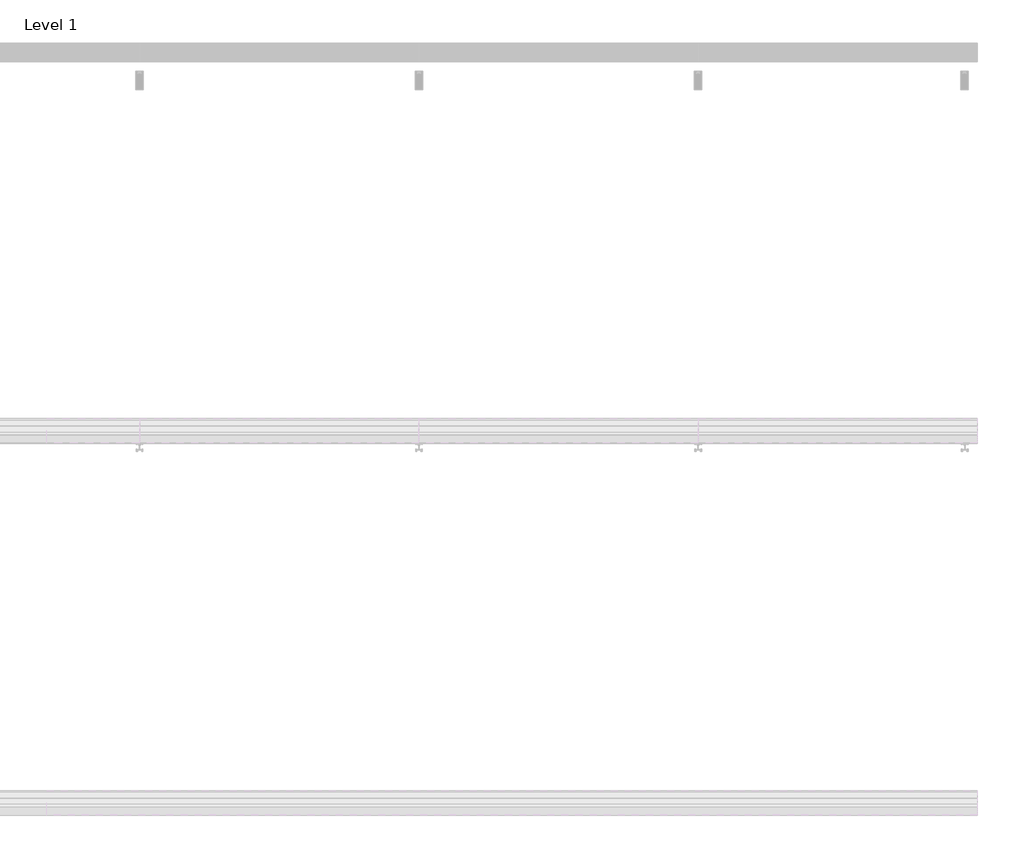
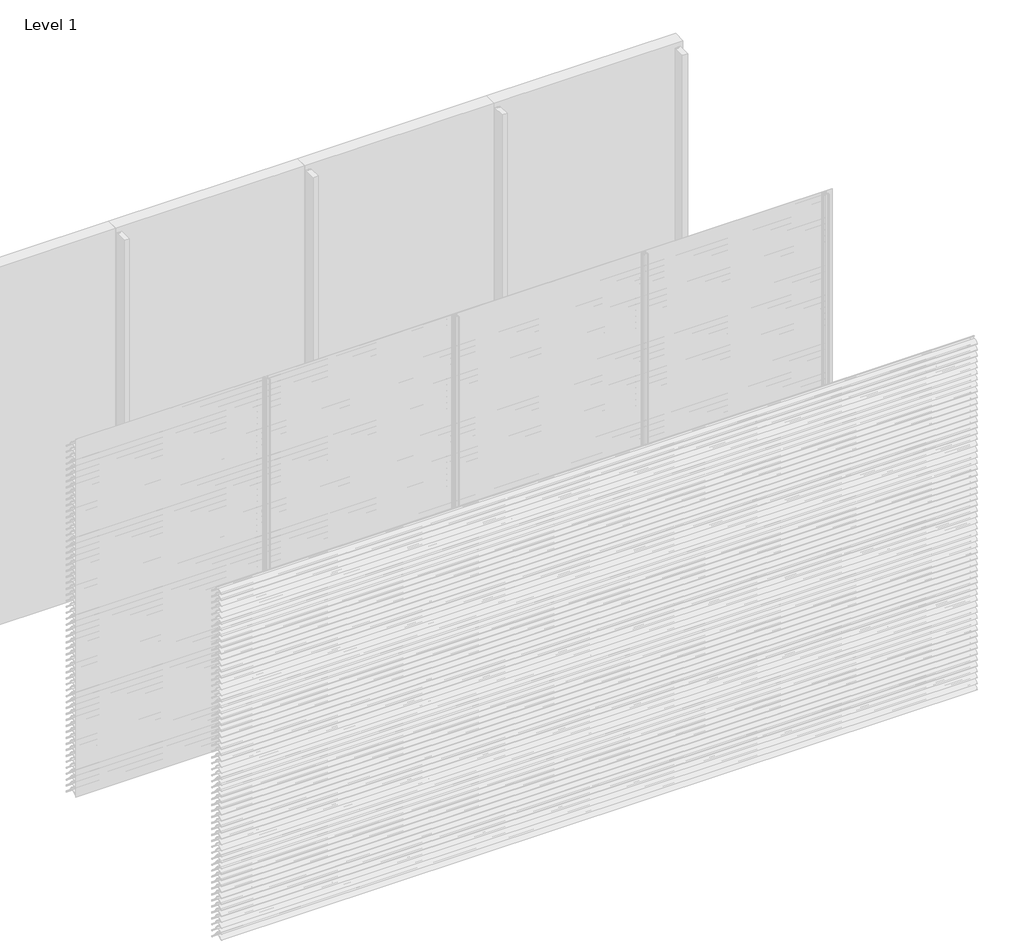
# One storey, part 50 of 173: 18 proxies.
"""IFC4 building model written with IfcOpenShell, lengths in millimetres."""

from ifc_helpers import new_model, si_unit, point, frame, frame_2d, origin, place, context, project, spatial, polyline, circle_curve, trimmed, segment, composite_curve, outline, extrude, element, save

model = new_model("IFC4")

# Units and contexts
model_context = context("Model", 3, world=origin())
ifc_project = project(units=[si_unit("LENGTHUNIT", "METRE", prefix="MILLI")], contexts=[model_context])

# Site, building, storey
site = spatial("IfcSite", under=ifc_project)
building = spatial("IfcBuilding", under=site)
storey = spatial("IfcBuildingStorey", under=building, Name="Level 1", Elevation=0.0)

# Proxies
placement = place(None, origin())
element("IfcBuildingElementProxy", 1, Name="Wall Sweeps", at=placement, inside=storey, context=model_context, shape_type="SweptSolid", body=[
    extrude(outline(composite_curve([segment(polyline([(-41998.0, 859.1474905), (-41998.0, 861.6227417)]), True, "CONTINUOUS"), segment(trimmed(circle_curve(frame_2d((-41951.2682172, 816.2200208)), 65.1557103), [point((-41998.0, 861.6227417))], [point((-41954.4014323, 881.3003524))], False, "CARTESIAN"), True, "CONTINUOUS"), segment(polyline([(-41954.4014323, 881.3003524), (-41934.8315836, 881.3003524)]), True, "CONTINUOUS"), segment(trimmed(circle_curve(frame_2d((-41732.7329489, 1028.5533172)), 250.0545817), [point((-41934.8315836, 881.3003524))], [point((-41941.4452143, 890.8344583))], False, "CARTESIAN"), True, "CONTINUOUS"), segment(trimmed(circle_curve(frame_2d((-41953.2981792, 885.1737835)), 13.1352966), [point((-41941.4452143, 890.8344583))], [point((-41953.8171475, 898.298824))], True, "CARTESIAN"), True, "CONTINUOUS"), segment(polyline([(-41953.8171475, 898.298824), (-41953.8171475, 900.0)]), True, "CONTINUOUS"), segment(trimmed(circle_curve(frame_2d((-41953.2981792, 885.1737835)), 14.8352966), [point((-41953.8171475, 900.0))], [point((-41939.9637661, 891.6760487))], False, "CARTESIAN"), True, "CONTINUOUS"), segment(trimmed(circle_curve(frame_2d((-41732.7329489, 1028.5533172)), 248.3545817), [point((-41939.9637661, 891.6760487))], [point((-41873.8787895, 824.2059416))], True, "CARTESIAN"), True, "CONTINUOUS"), segment(trimmed(circle_curve(frame_2d((-41883.8147537, 811.6649442)), 16.0), [point((-41873.8787895, 824.2059416))], [point((-41867.8648347, 810.4))], False, "CARTESIAN"), True, "CONTINUOUS"), segment(polyline([(-41867.8648347, 810.4), (-41869.6712069, 810.4)]), True, "CONTINUOUS"), segment(trimmed(circle_curve(frame_2d((-41883.8147537, 811.6649442)), 14.2), [point((-41869.6712069, 810.4))], [point((-41874.9518628, 822.7594998))], True, "CARTESIAN"), True, "CONTINUOUS"), segment(trimmed(circle_curve(frame_2d((-41732.7329489, 1028.5533172)), 250.1545817), [point((-41874.9518628, 822.7594998))], [point((-41933.7064024, 879.6003524))], False, "CARTESIAN"), True, "CONTINUOUS"), segment(polyline([(-41933.7064024, 879.6003524), (-41954.3602632, 879.6003524)]), True, "CONTINUOUS"), segment(trimmed(circle_curve(frame_2d((-41951.2682172, 816.2200208)), 63.4557103), [point((-41954.3602632, 879.6003524))], [point((-41998.0, 859.1474905))], True, "CARTESIAN"), True, "CONTINUOUS")], self_intersect=False)), frame((3000.0, 0.0, 0.0), z_axis=(1.0, 0.0, 0.0), x_axis=(0.0, 1.0, 0.0)), (0.0, 0.0, 1.0), 1500.0),
])
element("IfcBuildingElementProxy", 2, Name="Wall Sweeps", at=placement, inside=storey, context=model_context, shape_type="SweptSolid", body=[
    extrude(outline(composite_curve([segment(polyline([(-41998.0, 809.1474905), (-41998.0, 811.6227417)]), True, "CONTINUOUS"), segment(trimmed(circle_curve(frame_2d((-41951.2682172, 766.2200208)), 65.1557103), [point((-41998.0, 811.6227417))], [point((-41954.4014323, 831.3003524))], False, "CARTESIAN"), True, "CONTINUOUS"), segment(polyline([(-41954.4014323, 831.3003524), (-41934.8315836, 831.3003524)]), True, "CONTINUOUS"), segment(trimmed(circle_curve(frame_2d((-41732.7329489, 978.5533172)), 250.0545817), [point((-41934.8315836, 831.3003524))], [point((-41941.4452143, 840.8344583))], False, "CARTESIAN"), True, "CONTINUOUS"), segment(trimmed(circle_curve(frame_2d((-41953.2981792, 835.1737835)), 13.1352966), [point((-41941.4452143, 840.8344583))], [point((-41953.8171475, 848.298824))], True, "CARTESIAN"), True, "CONTINUOUS"), segment(polyline([(-41953.8171475, 848.298824), (-41953.8171475, 850.0)]), True, "CONTINUOUS"), segment(trimmed(circle_curve(frame_2d((-41953.2981792, 835.1737835)), 14.8352966), [point((-41953.8171475, 850.0))], [point((-41939.9637661, 841.6760487))], False, "CARTESIAN"), True, "CONTINUOUS"), segment(trimmed(circle_curve(frame_2d((-41732.7329489, 978.5533172)), 248.3545817), [point((-41939.9637661, 841.6760487))], [point((-41873.8787895, 774.2059416))], True, "CARTESIAN"), True, "CONTINUOUS"), segment(trimmed(circle_curve(frame_2d((-41883.8147537, 761.6649442)), 16.0), [point((-41873.8787895, 774.2059416))], [point((-41867.8648347, 760.4))], False, "CARTESIAN"), True, "CONTINUOUS"), segment(polyline([(-41867.8648347, 760.4), (-41869.6712069, 760.4)]), True, "CONTINUOUS"), segment(trimmed(circle_curve(frame_2d((-41883.8147537, 761.6649442)), 14.2), [point((-41869.6712069, 760.4))], [point((-41874.9518628, 772.7594998))], True, "CARTESIAN"), True, "CONTINUOUS"), segment(trimmed(circle_curve(frame_2d((-41732.7329489, 978.5533172)), 250.1545817), [point((-41874.9518628, 772.7594998))], [point((-41933.7064024, 829.6003524))], False, "CARTESIAN"), True, "CONTINUOUS"), segment(polyline([(-41933.7064024, 829.6003524), (-41954.3602632, 829.6003524)]), True, "CONTINUOUS"), segment(trimmed(circle_curve(frame_2d((-41951.2682172, 766.2200208)), 63.4557103), [point((-41954.3602632, 829.6003524))], [point((-41998.0, 809.1474905))], True, "CARTESIAN"), True, "CONTINUOUS")], self_intersect=False)), frame((3000.0, 0.0, 0.0), z_axis=(1.0, 0.0, 0.0), x_axis=(0.0, 1.0, 0.0)), (0.0, 0.0, 1.0), 1500.0),
])
element("IfcBuildingElementProxy", 3, Name="Wall Sweeps", at=placement, inside=storey, context=model_context, shape_type="SweptSolid", body=[
    extrude(outline(composite_curve([segment(polyline([(-41998.0, 759.1474905), (-41998.0, 761.6227417)]), True, "CONTINUOUS"), segment(trimmed(circle_curve(frame_2d((-41951.2682172, 716.2200208)), 65.1557103), [point((-41998.0, 761.6227417))], [point((-41954.4014323, 781.3003524))], False, "CARTESIAN"), True, "CONTINUOUS"), segment(polyline([(-41954.4014323, 781.3003524), (-41934.8315836, 781.3003524)]), True, "CONTINUOUS"), segment(trimmed(circle_curve(frame_2d((-41732.7329489, 928.5533172)), 250.0545817), [point((-41934.8315836, 781.3003524))], [point((-41941.4452143, 790.8344583))], False, "CARTESIAN"), True, "CONTINUOUS"), segment(trimmed(circle_curve(frame_2d((-41953.2981792, 785.1737835)), 13.1352966), [point((-41941.4452143, 790.8344583))], [point((-41953.8171475, 798.298824))], True, "CARTESIAN"), True, "CONTINUOUS"), segment(polyline([(-41953.8171475, 798.298824), (-41953.8171475, 800.0)]), True, "CONTINUOUS"), segment(trimmed(circle_curve(frame_2d((-41953.2981792, 785.1737835)), 14.8352966), [point((-41953.8171475, 800.0))], [point((-41939.9637661, 791.6760487))], False, "CARTESIAN"), True, "CONTINUOUS"), segment(trimmed(circle_curve(frame_2d((-41732.7329489, 928.5533172)), 248.3545817), [point((-41939.9637661, 791.6760487))], [point((-41873.8787895, 724.2059416))], True, "CARTESIAN"), True, "CONTINUOUS"), segment(trimmed(circle_curve(frame_2d((-41883.8147537, 711.6649442)), 16.0), [point((-41873.8787895, 724.2059416))], [point((-41867.8648347, 710.4))], False, "CARTESIAN"), True, "CONTINUOUS"), segment(polyline([(-41867.8648347, 710.4), (-41869.6712069, 710.4)]), True, "CONTINUOUS"), segment(trimmed(circle_curve(frame_2d((-41883.8147537, 711.6649442)), 14.2), [point((-41869.6712069, 710.4))], [point((-41874.9518628, 722.7594998))], True, "CARTESIAN"), True, "CONTINUOUS"), segment(trimmed(circle_curve(frame_2d((-41732.7329489, 928.5533172)), 250.1545817), [point((-41874.9518628, 722.7594998))], [point((-41933.7064024, 779.6003524))], False, "CARTESIAN"), True, "CONTINUOUS"), segment(polyline([(-41933.7064024, 779.6003524), (-41954.3602632, 779.6003524)]), True, "CONTINUOUS"), segment(trimmed(circle_curve(frame_2d((-41951.2682172, 716.2200208)), 63.4557103), [point((-41954.3602632, 779.6003524))], [point((-41998.0, 759.1474905))], True, "CARTESIAN"), True, "CONTINUOUS")], self_intersect=False)), frame((3000.0, 0.0, 0.0), z_axis=(1.0, 0.0, 0.0), x_axis=(0.0, 1.0, 0.0)), (0.0, 0.0, 1.0), 1500.0),
])
element("IfcBuildingElementProxy", 4, Name="Wall Sweeps", at=placement, inside=storey, context=model_context, shape_type="SweptSolid", body=[
    extrude(outline(composite_curve([segment(polyline([(-41998.0, 709.1474905), (-41998.0, 711.6227417)]), True, "CONTINUOUS"), segment(trimmed(circle_curve(frame_2d((-41951.2682172, 666.2200208)), 65.1557103), [point((-41998.0, 711.6227417))], [point((-41954.4014323, 731.3003524))], False, "CARTESIAN"), True, "CONTINUOUS"), segment(polyline([(-41954.4014323, 731.3003524), (-41934.8315836, 731.3003524)]), True, "CONTINUOUS"), segment(trimmed(circle_curve(frame_2d((-41732.7329489, 878.5533172)), 250.0545817), [point((-41934.8315836, 731.3003524))], [point((-41941.4452143, 740.8344583))], False, "CARTESIAN"), True, "CONTINUOUS"), segment(trimmed(circle_curve(frame_2d((-41953.2981792, 735.1737835)), 13.1352966), [point((-41941.4452143, 740.8344583))], [point((-41953.8171475, 748.298824))], True, "CARTESIAN"), True, "CONTINUOUS"), segment(polyline([(-41953.8171475, 748.298824), (-41953.8171475, 750.0)]), True, "CONTINUOUS"), segment(trimmed(circle_curve(frame_2d((-41953.2981792, 735.1737835)), 14.8352966), [point((-41953.8171475, 750.0))], [point((-41939.9637661, 741.6760487))], False, "CARTESIAN"), True, "CONTINUOUS"), segment(trimmed(circle_curve(frame_2d((-41732.7329489, 878.5533172)), 248.3545817), [point((-41939.9637661, 741.6760487))], [point((-41873.8787895, 674.2059416))], True, "CARTESIAN"), True, "CONTINUOUS"), segment(trimmed(circle_curve(frame_2d((-41883.8147537, 661.6649442)), 16.0), [point((-41873.8787895, 674.2059416))], [point((-41867.8648347, 660.4))], False, "CARTESIAN"), True, "CONTINUOUS"), segment(polyline([(-41867.8648347, 660.4), (-41869.6712069, 660.4)]), True, "CONTINUOUS"), segment(trimmed(circle_curve(frame_2d((-41883.8147537, 661.6649442)), 14.2), [point((-41869.6712069, 660.4))], [point((-41874.9518628, 672.7594998))], True, "CARTESIAN"), True, "CONTINUOUS"), segment(trimmed(circle_curve(frame_2d((-41732.7329489, 878.5533172)), 250.1545817), [point((-41874.9518628, 672.7594998))], [point((-41933.7064024, 729.6003524))], False, "CARTESIAN"), True, "CONTINUOUS"), segment(polyline([(-41933.7064024, 729.6003524), (-41954.3602632, 729.6003524)]), True, "CONTINUOUS"), segment(trimmed(circle_curve(frame_2d((-41951.2682172, 666.2200208)), 63.4557103), [point((-41954.3602632, 729.6003524))], [point((-41998.0, 709.1474905))], True, "CARTESIAN"), True, "CONTINUOUS")], self_intersect=False)), frame((3000.0, 0.0, 0.0), z_axis=(1.0, 0.0, 0.0), x_axis=(0.0, 1.0, 0.0)), (0.0, 0.0, 1.0), 1500.0),
])
element("IfcBuildingElementProxy", 5, Name="Wall Sweeps", at=placement, inside=storey, context=model_context, shape_type="SweptSolid", body=[
    extrude(outline(composite_curve([segment(polyline([(-41998.0, 659.1474905), (-41998.0, 661.6227417)]), True, "CONTINUOUS"), segment(trimmed(circle_curve(frame_2d((-41951.2682172, 616.2200208)), 65.1557103), [point((-41998.0, 661.6227417))], [point((-41954.4014323, 681.3003524))], False, "CARTESIAN"), True, "CONTINUOUS"), segment(polyline([(-41954.4014323, 681.3003524), (-41934.8315836, 681.3003524)]), True, "CONTINUOUS"), segment(trimmed(circle_curve(frame_2d((-41732.7329489, 828.5533172)), 250.0545817), [point((-41934.8315836, 681.3003524))], [point((-41941.4452143, 690.8344583))], False, "CARTESIAN"), True, "CONTINUOUS"), segment(trimmed(circle_curve(frame_2d((-41953.2981792, 685.1737835)), 13.1352966), [point((-41941.4452143, 690.8344583))], [point((-41953.8171475, 698.298824))], True, "CARTESIAN"), True, "CONTINUOUS"), segment(polyline([(-41953.8171475, 698.298824), (-41953.8171475, 700.0)]), True, "CONTINUOUS"), segment(trimmed(circle_curve(frame_2d((-41953.2981792, 685.1737835)), 14.8352966), [point((-41953.8171475, 700.0))], [point((-41939.9637661, 691.6760487))], False, "CARTESIAN"), True, "CONTINUOUS"), segment(trimmed(circle_curve(frame_2d((-41732.7329489, 828.5533172)), 248.3545817), [point((-41939.9637661, 691.6760487))], [point((-41873.8787895, 624.2059416))], True, "CARTESIAN"), True, "CONTINUOUS"), segment(trimmed(circle_curve(frame_2d((-41883.8147537, 611.6649442)), 16.0), [point((-41873.8787895, 624.2059416))], [point((-41867.8648347, 610.4))], False, "CARTESIAN"), True, "CONTINUOUS"), segment(polyline([(-41867.8648347, 610.4), (-41869.6712069, 610.4)]), True, "CONTINUOUS"), segment(trimmed(circle_curve(frame_2d((-41883.8147537, 611.6649442)), 14.2), [point((-41869.6712069, 610.4))], [point((-41874.9518628, 622.7594998))], True, "CARTESIAN"), True, "CONTINUOUS"), segment(trimmed(circle_curve(frame_2d((-41732.7329489, 828.5533172)), 250.1545817), [point((-41874.9518628, 622.7594998))], [point((-41933.7064024, 679.6003524))], False, "CARTESIAN"), True, "CONTINUOUS"), segment(polyline([(-41933.7064024, 679.6003524), (-41954.3602632, 679.6003524)]), True, "CONTINUOUS"), segment(trimmed(circle_curve(frame_2d((-41951.2682172, 616.2200208)), 63.4557103), [point((-41954.3602632, 679.6003524))], [point((-41998.0, 659.1474905))], True, "CARTESIAN"), True, "CONTINUOUS")], self_intersect=False)), frame((3000.0, 0.0, 0.0), z_axis=(1.0, 0.0, 0.0), x_axis=(0.0, 1.0, 0.0)), (0.0, 0.0, 1.0), 1500.0),
])
element("IfcBuildingElementProxy", 6, Name="Wall Sweeps", at=placement, inside=storey, context=model_context, shape_type="SweptSolid", body=[
    extrude(outline(composite_curve([segment(polyline([(-41998.0, 609.1474905), (-41998.0, 611.6227417)]), True, "CONTINUOUS"), segment(trimmed(circle_curve(frame_2d((-41951.2682172, 566.2200208)), 65.1557103), [point((-41998.0, 611.6227417))], [point((-41954.4014323, 631.3003524))], False, "CARTESIAN"), True, "CONTINUOUS"), segment(polyline([(-41954.4014323, 631.3003524), (-41934.8315836, 631.3003524)]), True, "CONTINUOUS"), segment(trimmed(circle_curve(frame_2d((-41732.7329489, 778.5533172)), 250.0545817), [point((-41934.8315836, 631.3003524))], [point((-41941.4452143, 640.8344583))], False, "CARTESIAN"), True, "CONTINUOUS"), segment(trimmed(circle_curve(frame_2d((-41953.2981792, 635.1737835)), 13.1352966), [point((-41941.4452143, 640.8344583))], [point((-41953.8171475, 648.298824))], True, "CARTESIAN"), True, "CONTINUOUS"), segment(polyline([(-41953.8171475, 648.298824), (-41953.8171475, 650.0)]), True, "CONTINUOUS"), segment(trimmed(circle_curve(frame_2d((-41953.2981792, 635.1737835)), 14.8352966), [point((-41953.8171475, 650.0))], [point((-41939.9637661, 641.6760487))], False, "CARTESIAN"), True, "CONTINUOUS"), segment(trimmed(circle_curve(frame_2d((-41732.7329489, 778.5533172)), 248.3545817), [point((-41939.9637661, 641.6760487))], [point((-41873.8787895, 574.2059416))], True, "CARTESIAN"), True, "CONTINUOUS"), segment(trimmed(circle_curve(frame_2d((-41883.8147537, 561.6649442)), 16.0), [point((-41873.8787895, 574.2059416))], [point((-41867.8648347, 560.4))], False, "CARTESIAN"), True, "CONTINUOUS"), segment(polyline([(-41867.8648347, 560.4), (-41869.6712069, 560.4)]), True, "CONTINUOUS"), segment(trimmed(circle_curve(frame_2d((-41883.8147537, 561.6649442)), 14.2), [point((-41869.6712069, 560.4))], [point((-41874.9518628, 572.7594998))], True, "CARTESIAN"), True, "CONTINUOUS"), segment(trimmed(circle_curve(frame_2d((-41732.7329489, 778.5533172)), 250.1545817), [point((-41874.9518628, 572.7594998))], [point((-41933.7064024, 629.6003524))], False, "CARTESIAN"), True, "CONTINUOUS"), segment(polyline([(-41933.7064024, 629.6003524), (-41954.3602632, 629.6003524)]), True, "CONTINUOUS"), segment(trimmed(circle_curve(frame_2d((-41951.2682172, 566.2200208)), 63.4557103), [point((-41954.3602632, 629.6003524))], [point((-41998.0, 609.1474905))], True, "CARTESIAN"), True, "CONTINUOUS")], self_intersect=False)), frame((3000.0, 0.0, 0.0), z_axis=(1.0, 0.0, 0.0), x_axis=(0.0, 1.0, 0.0)), (0.0, 0.0, 1.0), 1500.0),
])
element("IfcBuildingElementProxy", 7, Name="Wall Sweeps", at=placement, inside=storey, context=model_context, shape_type="SweptSolid", body=[
    extrude(outline(composite_curve([segment(polyline([(-41998.0, 559.1474905), (-41998.0, 561.6227417)]), True, "CONTINUOUS"), segment(trimmed(circle_curve(frame_2d((-41951.2682172, 516.2200208)), 65.1557103), [point((-41998.0, 561.6227417))], [point((-41954.4014323, 581.3003524))], False, "CARTESIAN"), True, "CONTINUOUS"), segment(polyline([(-41954.4014323, 581.3003524), (-41934.8315836, 581.3003524)]), True, "CONTINUOUS"), segment(trimmed(circle_curve(frame_2d((-41732.7329489, 728.5533172)), 250.0545817), [point((-41934.8315836, 581.3003524))], [point((-41941.4452143, 590.8344583))], False, "CARTESIAN"), True, "CONTINUOUS"), segment(trimmed(circle_curve(frame_2d((-41953.2981792, 585.1737835)), 13.1352966), [point((-41941.4452143, 590.8344583))], [point((-41953.8171475, 598.298824))], True, "CARTESIAN"), True, "CONTINUOUS"), segment(polyline([(-41953.8171475, 598.298824), (-41953.8171475, 600.0)]), True, "CONTINUOUS"), segment(trimmed(circle_curve(frame_2d((-41953.2981792, 585.1737835)), 14.8352966), [point((-41953.8171475, 600.0))], [point((-41939.9637661, 591.6760487))], False, "CARTESIAN"), True, "CONTINUOUS"), segment(trimmed(circle_curve(frame_2d((-41732.7329489, 728.5533172)), 248.3545817), [point((-41939.9637661, 591.6760487))], [point((-41873.8787895, 524.2059416))], True, "CARTESIAN"), True, "CONTINUOUS"), segment(trimmed(circle_curve(frame_2d((-41883.8147537, 511.6649442)), 16.0), [point((-41873.8787895, 524.2059416))], [point((-41867.8648347, 510.4))], False, "CARTESIAN"), True, "CONTINUOUS"), segment(polyline([(-41867.8648347, 510.4), (-41869.6712069, 510.4)]), True, "CONTINUOUS"), segment(trimmed(circle_curve(frame_2d((-41883.8147537, 511.6649442)), 14.2), [point((-41869.6712069, 510.4))], [point((-41874.9518628, 522.7594998))], True, "CARTESIAN"), True, "CONTINUOUS"), segment(trimmed(circle_curve(frame_2d((-41732.7329489, 728.5533172)), 250.1545817), [point((-41874.9518628, 522.7594998))], [point((-41933.7064024, 579.6003524))], False, "CARTESIAN"), True, "CONTINUOUS"), segment(polyline([(-41933.7064024, 579.6003524), (-41954.3602632, 579.6003524)]), True, "CONTINUOUS"), segment(trimmed(circle_curve(frame_2d((-41951.2682172, 516.2200208)), 63.4557103), [point((-41954.3602632, 579.6003524))], [point((-41998.0, 559.1474905))], True, "CARTESIAN"), True, "CONTINUOUS")], self_intersect=False)), frame((3000.0, 0.0, 0.0), z_axis=(1.0, 0.0, 0.0), x_axis=(0.0, 1.0, 0.0)), (0.0, 0.0, 1.0), 1500.0),
])
element("IfcBuildingElementProxy", 8, Name="Wall Sweeps", at=placement, inside=storey, context=model_context, shape_type="SweptSolid", body=[
    extrude(outline(composite_curve([segment(polyline([(-41998.0, 509.1474905), (-41998.0, 511.6227417)]), True, "CONTINUOUS"), segment(trimmed(circle_curve(frame_2d((-41951.2682172, 466.2200208)), 65.1557103), [point((-41998.0, 511.6227417))], [point((-41954.4014323, 531.3003524))], False, "CARTESIAN"), True, "CONTINUOUS"), segment(polyline([(-41954.4014323, 531.3003524), (-41934.8315836, 531.3003524)]), True, "CONTINUOUS"), segment(trimmed(circle_curve(frame_2d((-41732.7329489, 678.5533172)), 250.0545817), [point((-41934.8315836, 531.3003524))], [point((-41941.4452143, 540.8344583))], False, "CARTESIAN"), True, "CONTINUOUS"), segment(trimmed(circle_curve(frame_2d((-41953.2981792, 535.1737835)), 13.1352966), [point((-41941.4452143, 540.8344583))], [point((-41953.8171475, 548.298824))], True, "CARTESIAN"), True, "CONTINUOUS"), segment(polyline([(-41953.8171475, 548.298824), (-41953.8171475, 550.0)]), True, "CONTINUOUS"), segment(trimmed(circle_curve(frame_2d((-41953.2981792, 535.1737835)), 14.8352966), [point((-41953.8171475, 550.0))], [point((-41939.9637661, 541.6760487))], False, "CARTESIAN"), True, "CONTINUOUS"), segment(trimmed(circle_curve(frame_2d((-41732.7329489, 678.5533172)), 248.3545817), [point((-41939.9637661, 541.6760487))], [point((-41873.8787895, 474.2059416))], True, "CARTESIAN"), True, "CONTINUOUS"), segment(trimmed(circle_curve(frame_2d((-41883.8147537, 461.6649442)), 16.0), [point((-41873.8787895, 474.2059416))], [point((-41867.8648347, 460.4))], False, "CARTESIAN"), True, "CONTINUOUS"), segment(polyline([(-41867.8648347, 460.4), (-41869.6712069, 460.4)]), True, "CONTINUOUS"), segment(trimmed(circle_curve(frame_2d((-41883.8147537, 461.6649442)), 14.2), [point((-41869.6712069, 460.4))], [point((-41874.9518628, 472.7594998))], True, "CARTESIAN"), True, "CONTINUOUS"), segment(trimmed(circle_curve(frame_2d((-41732.7329489, 678.5533172)), 250.1545817), [point((-41874.9518628, 472.7594998))], [point((-41933.7064024, 529.6003524))], False, "CARTESIAN"), True, "CONTINUOUS"), segment(polyline([(-41933.7064024, 529.6003524), (-41954.3602632, 529.6003524)]), True, "CONTINUOUS"), segment(trimmed(circle_curve(frame_2d((-41951.2682172, 466.2200208)), 63.4557103), [point((-41954.3602632, 529.6003524))], [point((-41998.0, 509.1474905))], True, "CARTESIAN"), True, "CONTINUOUS")], self_intersect=False)), frame((3000.0, 0.0, 0.0), z_axis=(1.0, 0.0, 0.0), x_axis=(0.0, 1.0, 0.0)), (0.0, 0.0, 1.0), 1500.0),
])
element("IfcBuildingElementProxy", 9, Name="Wall Sweeps", at=placement, inside=storey, context=model_context, shape_type="SweptSolid", body=[
    extrude(outline(composite_curve([segment(polyline([(-41998.0, 459.1474905), (-41998.0, 461.6227417)]), True, "CONTINUOUS"), segment(trimmed(circle_curve(frame_2d((-41951.2682172, 416.2200208)), 65.1557103), [point((-41998.0, 461.6227417))], [point((-41954.4014323, 481.3003524))], False, "CARTESIAN"), True, "CONTINUOUS"), segment(polyline([(-41954.4014323, 481.3003524), (-41934.8315836, 481.3003524)]), True, "CONTINUOUS"), segment(trimmed(circle_curve(frame_2d((-41732.7329489, 628.5533172)), 250.0545817), [point((-41934.8315836, 481.3003524))], [point((-41941.4452143, 490.8344583))], False, "CARTESIAN"), True, "CONTINUOUS"), segment(trimmed(circle_curve(frame_2d((-41953.2981792, 485.1737835)), 13.1352966), [point((-41941.4452143, 490.8344583))], [point((-41953.8171475, 498.298824))], True, "CARTESIAN"), True, "CONTINUOUS"), segment(polyline([(-41953.8171475, 498.298824), (-41953.8171475, 500.0)]), True, "CONTINUOUS"), segment(trimmed(circle_curve(frame_2d((-41953.2981792, 485.1737835)), 14.8352966), [point((-41953.8171475, 500.0))], [point((-41939.9637661, 491.6760487))], False, "CARTESIAN"), True, "CONTINUOUS"), segment(trimmed(circle_curve(frame_2d((-41732.7329489, 628.5533172)), 248.3545817), [point((-41939.9637661, 491.6760487))], [point((-41873.8787895, 424.2059416))], True, "CARTESIAN"), True, "CONTINUOUS"), segment(trimmed(circle_curve(frame_2d((-41883.8147537, 411.6649442)), 16.0), [point((-41873.8787895, 424.2059416))], [point((-41867.8648347, 410.4))], False, "CARTESIAN"), True, "CONTINUOUS"), segment(polyline([(-41867.8648347, 410.4), (-41869.6712069, 410.4)]), True, "CONTINUOUS"), segment(trimmed(circle_curve(frame_2d((-41883.8147537, 411.6649442)), 14.2), [point((-41869.6712069, 410.4))], [point((-41874.9518628, 422.7594998))], True, "CARTESIAN"), True, "CONTINUOUS"), segment(trimmed(circle_curve(frame_2d((-41732.7329489, 628.5533172)), 250.1545817), [point((-41874.9518628, 422.7594998))], [point((-41933.7064024, 479.6003524))], False, "CARTESIAN"), True, "CONTINUOUS"), segment(polyline([(-41933.7064024, 479.6003524), (-41954.3602632, 479.6003524)]), True, "CONTINUOUS"), segment(trimmed(circle_curve(frame_2d((-41951.2682172, 416.2200208)), 63.4557103), [point((-41954.3602632, 479.6003524))], [point((-41998.0, 459.1474905))], True, "CARTESIAN"), True, "CONTINUOUS")], self_intersect=False)), frame((3000.0, 0.0, 0.0), z_axis=(1.0, 0.0, 0.0), x_axis=(0.0, 1.0, 0.0)), (0.0, 0.0, 1.0), 1500.0),
])
element("IfcBuildingElementProxy", 10, Name="Wall Sweeps", at=placement, inside=storey, context=model_context, shape_type="SweptSolid", body=[
    extrude(outline(composite_curve([segment(polyline([(-41998.0, 409.1474905), (-41998.0, 411.6227417)]), True, "CONTINUOUS"), segment(trimmed(circle_curve(frame_2d((-41951.2682172, 366.2200208)), 65.1557103), [point((-41998.0, 411.6227417))], [point((-41954.4014323, 431.3003524))], False, "CARTESIAN"), True, "CONTINUOUS"), segment(polyline([(-41954.4014323, 431.3003524), (-41934.8315836, 431.3003524)]), True, "CONTINUOUS"), segment(trimmed(circle_curve(frame_2d((-41732.7329489, 578.5533172)), 250.0545817), [point((-41934.8315836, 431.3003524))], [point((-41941.4452143, 440.8344583))], False, "CARTESIAN"), True, "CONTINUOUS"), segment(trimmed(circle_curve(frame_2d((-41953.2981792, 435.1737835)), 13.1352966), [point((-41941.4452143, 440.8344583))], [point((-41953.8171475, 448.298824))], True, "CARTESIAN"), True, "CONTINUOUS"), segment(polyline([(-41953.8171475, 448.298824), (-41953.8171475, 450.0)]), True, "CONTINUOUS"), segment(trimmed(circle_curve(frame_2d((-41953.2981792, 435.1737835)), 14.8352966), [point((-41953.8171475, 450.0))], [point((-41939.9637661, 441.6760487))], False, "CARTESIAN"), True, "CONTINUOUS"), segment(trimmed(circle_curve(frame_2d((-41732.7329489, 578.5533172)), 248.3545817), [point((-41939.9637661, 441.6760487))], [point((-41873.8787895, 374.2059416))], True, "CARTESIAN"), True, "CONTINUOUS"), segment(trimmed(circle_curve(frame_2d((-41883.8147537, 361.6649442)), 16.0), [point((-41873.8787895, 374.2059416))], [point((-41867.8648347, 360.4))], False, "CARTESIAN"), True, "CONTINUOUS"), segment(polyline([(-41867.8648347, 360.4), (-41869.6712069, 360.4)]), True, "CONTINUOUS"), segment(trimmed(circle_curve(frame_2d((-41883.8147537, 361.6649442)), 14.2), [point((-41869.6712069, 360.4))], [point((-41874.9518628, 372.7594998))], True, "CARTESIAN"), True, "CONTINUOUS"), segment(trimmed(circle_curve(frame_2d((-41732.7329489, 578.5533172)), 250.1545817), [point((-41874.9518628, 372.7594998))], [point((-41933.7064024, 429.6003524))], False, "CARTESIAN"), True, "CONTINUOUS"), segment(polyline([(-41933.7064024, 429.6003524), (-41954.3602632, 429.6003524)]), True, "CONTINUOUS"), segment(trimmed(circle_curve(frame_2d((-41951.2682172, 366.2200208)), 63.4557103), [point((-41954.3602632, 429.6003524))], [point((-41998.0, 409.1474905))], True, "CARTESIAN"), True, "CONTINUOUS")], self_intersect=False)), frame((3000.0, 0.0, 0.0), z_axis=(1.0, 0.0, 0.0), x_axis=(0.0, 1.0, 0.0)), (0.0, 0.0, 1.0), 1500.0),
])
element("IfcBuildingElementProxy", 11, Name="Wall Sweeps", at=placement, inside=storey, context=model_context, shape_type="SweptSolid", body=[
    extrude(outline(composite_curve([segment(polyline([(-41998.0, 359.1474905), (-41998.0, 361.6227417)]), True, "CONTINUOUS"), segment(trimmed(circle_curve(frame_2d((-41951.2682172, 316.2200208)), 65.1557103), [point((-41998.0, 361.6227417))], [point((-41954.4014323, 381.3003524))], False, "CARTESIAN"), True, "CONTINUOUS"), segment(polyline([(-41954.4014323, 381.3003524), (-41934.8315836, 381.3003524)]), True, "CONTINUOUS"), segment(trimmed(circle_curve(frame_2d((-41732.7329489, 528.5533172)), 250.0545817), [point((-41934.8315836, 381.3003524))], [point((-41941.4452143, 390.8344583))], False, "CARTESIAN"), True, "CONTINUOUS"), segment(trimmed(circle_curve(frame_2d((-41953.2981792, 385.1737835)), 13.1352966), [point((-41941.4452143, 390.8344583))], [point((-41953.8171475, 398.298824))], True, "CARTESIAN"), True, "CONTINUOUS"), segment(polyline([(-41953.8171475, 398.298824), (-41953.8171475, 400.0)]), True, "CONTINUOUS"), segment(trimmed(circle_curve(frame_2d((-41953.2981792, 385.1737835)), 14.8352966), [point((-41953.8171475, 400.0))], [point((-41939.9637661, 391.6760487))], False, "CARTESIAN"), True, "CONTINUOUS"), segment(trimmed(circle_curve(frame_2d((-41732.7329489, 528.5533172)), 248.3545817), [point((-41939.9637661, 391.6760487))], [point((-41873.8787895, 324.2059416))], True, "CARTESIAN"), True, "CONTINUOUS"), segment(trimmed(circle_curve(frame_2d((-41883.8147537, 311.6649442)), 16.0), [point((-41873.8787895, 324.2059416))], [point((-41867.8648347, 310.4))], False, "CARTESIAN"), True, "CONTINUOUS"), segment(polyline([(-41867.8648347, 310.4), (-41869.6712069, 310.4)]), True, "CONTINUOUS"), segment(trimmed(circle_curve(frame_2d((-41883.8147537, 311.6649442)), 14.2), [point((-41869.6712069, 310.4))], [point((-41874.9518628, 322.7594998))], True, "CARTESIAN"), True, "CONTINUOUS"), segment(trimmed(circle_curve(frame_2d((-41732.7329489, 528.5533172)), 250.1545817), [point((-41874.9518628, 322.7594998))], [point((-41933.7064024, 379.6003524))], False, "CARTESIAN"), True, "CONTINUOUS"), segment(polyline([(-41933.7064024, 379.6003524), (-41954.3602632, 379.6003524)]), True, "CONTINUOUS"), segment(trimmed(circle_curve(frame_2d((-41951.2682172, 316.2200208)), 63.4557103), [point((-41954.3602632, 379.6003524))], [point((-41998.0, 359.1474905))], True, "CARTESIAN"), True, "CONTINUOUS")], self_intersect=False)), frame((3000.0, 0.0, 0.0), z_axis=(1.0, 0.0, 0.0), x_axis=(0.0, 1.0, 0.0)), (0.0, 0.0, 1.0), 1500.0),
])
element("IfcBuildingElementProxy", 12, Name="Wall Sweeps", at=placement, inside=storey, context=model_context, shape_type="SweptSolid", body=[
    extrude(outline(composite_curve([segment(polyline([(-41998.0, 309.1474905), (-41998.0, 311.6227417)]), True, "CONTINUOUS"), segment(trimmed(circle_curve(frame_2d((-41951.2682172, 266.2200208)), 65.1557103), [point((-41998.0, 311.6227417))], [point((-41954.4014323, 331.3003524))], False, "CARTESIAN"), True, "CONTINUOUS"), segment(polyline([(-41954.4014323, 331.3003524), (-41934.8315836, 331.3003524)]), True, "CONTINUOUS"), segment(trimmed(circle_curve(frame_2d((-41732.7329489, 478.5533172)), 250.0545817), [point((-41934.8315836, 331.3003524))], [point((-41941.4452143, 340.8344583))], False, "CARTESIAN"), True, "CONTINUOUS"), segment(trimmed(circle_curve(frame_2d((-41953.2981792, 335.1737835)), 13.1352966), [point((-41941.4452143, 340.8344583))], [point((-41953.8171475, 348.298824))], True, "CARTESIAN"), True, "CONTINUOUS"), segment(polyline([(-41953.8171475, 348.298824), (-41953.8171475, 350.0)]), True, "CONTINUOUS"), segment(trimmed(circle_curve(frame_2d((-41953.2981792, 335.1737835)), 14.8352966), [point((-41953.8171475, 350.0))], [point((-41939.9637661, 341.6760487))], False, "CARTESIAN"), True, "CONTINUOUS"), segment(trimmed(circle_curve(frame_2d((-41732.7329489, 478.5533172)), 248.3545817), [point((-41939.9637661, 341.6760487))], [point((-41873.8787895, 274.2059416))], True, "CARTESIAN"), True, "CONTINUOUS"), segment(trimmed(circle_curve(frame_2d((-41883.8147537, 261.6649442)), 16.0), [point((-41873.8787895, 274.2059416))], [point((-41867.8648347, 260.4))], False, "CARTESIAN"), True, "CONTINUOUS"), segment(polyline([(-41867.8648347, 260.4), (-41869.6712069, 260.4)]), True, "CONTINUOUS"), segment(trimmed(circle_curve(frame_2d((-41883.8147537, 261.6649442)), 14.2), [point((-41869.6712069, 260.4))], [point((-41874.9518628, 272.7594998))], True, "CARTESIAN"), True, "CONTINUOUS"), segment(trimmed(circle_curve(frame_2d((-41732.7329489, 478.5533172)), 250.1545817), [point((-41874.9518628, 272.7594998))], [point((-41933.7064024, 329.6003524))], False, "CARTESIAN"), True, "CONTINUOUS"), segment(polyline([(-41933.7064024, 329.6003524), (-41954.3602632, 329.6003524)]), True, "CONTINUOUS"), segment(trimmed(circle_curve(frame_2d((-41951.2682172, 266.2200208)), 63.4557103), [point((-41954.3602632, 329.6003524))], [point((-41998.0, 309.1474905))], True, "CARTESIAN"), True, "CONTINUOUS")], self_intersect=False)), frame((3000.0, 0.0, 0.0), z_axis=(1.0, 0.0, 0.0), x_axis=(0.0, 1.0, 0.0)), (0.0, 0.0, 1.0), 1500.0),
])
element("IfcBuildingElementProxy", 13, Name="Wall Sweeps", at=placement, inside=storey, context=model_context, shape_type="SweptSolid", body=[
    extrude(outline(composite_curve([segment(polyline([(-41998.0, 259.1474905), (-41998.0, 261.6227417)]), True, "CONTINUOUS"), segment(trimmed(circle_curve(frame_2d((-41951.2682172, 216.2200208)), 65.1557103), [point((-41998.0, 261.6227417))], [point((-41954.4014323, 281.3003524))], False, "CARTESIAN"), True, "CONTINUOUS"), segment(polyline([(-41954.4014323, 281.3003524), (-41934.8315836, 281.3003524)]), True, "CONTINUOUS"), segment(trimmed(circle_curve(frame_2d((-41732.7329489, 428.5533172)), 250.0545817), [point((-41934.8315836, 281.3003524))], [point((-41941.4452143, 290.8344583))], False, "CARTESIAN"), True, "CONTINUOUS"), segment(trimmed(circle_curve(frame_2d((-41953.2981792, 285.1737835)), 13.1352966), [point((-41941.4452143, 290.8344583))], [point((-41953.8171475, 298.298824))], True, "CARTESIAN"), True, "CONTINUOUS"), segment(polyline([(-41953.8171475, 298.298824), (-41953.8171475, 300.0)]), True, "CONTINUOUS"), segment(trimmed(circle_curve(frame_2d((-41953.2981792, 285.1737835)), 14.8352966), [point((-41953.8171475, 300.0))], [point((-41939.9637661, 291.6760487))], False, "CARTESIAN"), True, "CONTINUOUS"), segment(trimmed(circle_curve(frame_2d((-41732.7329489, 428.5533172)), 248.3545817), [point((-41939.9637661, 291.6760487))], [point((-41873.8787895, 224.2059416))], True, "CARTESIAN"), True, "CONTINUOUS"), segment(trimmed(circle_curve(frame_2d((-41883.8147537, 211.6649442)), 16.0), [point((-41873.8787895, 224.2059416))], [point((-41867.8648347, 210.4))], False, "CARTESIAN"), True, "CONTINUOUS"), segment(polyline([(-41867.8648347, 210.4), (-41869.6712069, 210.4)]), True, "CONTINUOUS"), segment(trimmed(circle_curve(frame_2d((-41883.8147537, 211.6649442)), 14.2), [point((-41869.6712069, 210.4))], [point((-41874.9518628, 222.7594998))], True, "CARTESIAN"), True, "CONTINUOUS"), segment(trimmed(circle_curve(frame_2d((-41732.7329489, 428.5533172)), 250.1545817), [point((-41874.9518628, 222.7594998))], [point((-41933.7064024, 279.6003524))], False, "CARTESIAN"), True, "CONTINUOUS"), segment(polyline([(-41933.7064024, 279.6003524), (-41954.3602632, 279.6003524)]), True, "CONTINUOUS"), segment(trimmed(circle_curve(frame_2d((-41951.2682172, 216.2200208)), 63.4557103), [point((-41954.3602632, 279.6003524))], [point((-41998.0, 259.1474905))], True, "CARTESIAN"), True, "CONTINUOUS")], self_intersect=False)), frame((3000.0, 0.0, 0.0), z_axis=(1.0, 0.0, 0.0), x_axis=(0.0, 1.0, 0.0)), (0.0, 0.0, 1.0), 1500.0),
])
element("IfcBuildingElementProxy", 14, Name="Wall Sweeps", at=placement, inside=storey, context=model_context, shape_type="SweptSolid", body=[
    extrude(outline(composite_curve([segment(polyline([(-41998.0, 209.1474905), (-41998.0, 211.6227417)]), True, "CONTINUOUS"), segment(trimmed(circle_curve(frame_2d((-41951.2682172, 166.2200208)), 65.1557103), [point((-41998.0, 211.6227417))], [point((-41954.4014323, 231.3003524))], False, "CARTESIAN"), True, "CONTINUOUS"), segment(polyline([(-41954.4014323, 231.3003524), (-41934.8315836, 231.3003524)]), True, "CONTINUOUS"), segment(trimmed(circle_curve(frame_2d((-41732.7329489, 378.5533172)), 250.0545817), [point((-41934.8315836, 231.3003524))], [point((-41941.4452143, 240.8344583))], False, "CARTESIAN"), True, "CONTINUOUS"), segment(trimmed(circle_curve(frame_2d((-41953.2981792, 235.1737835)), 13.1352966), [point((-41941.4452143, 240.8344583))], [point((-41953.8171475, 248.298824))], True, "CARTESIAN"), True, "CONTINUOUS"), segment(polyline([(-41953.8171475, 248.298824), (-41953.8171475, 250.0)]), True, "CONTINUOUS"), segment(trimmed(circle_curve(frame_2d((-41953.2981792, 235.1737835)), 14.8352966), [point((-41953.8171475, 250.0))], [point((-41939.9637661, 241.6760487))], False, "CARTESIAN"), True, "CONTINUOUS"), segment(trimmed(circle_curve(frame_2d((-41732.7329489, 378.5533172)), 248.3545817), [point((-41939.9637661, 241.6760487))], [point((-41873.8787895, 174.2059416))], True, "CARTESIAN"), True, "CONTINUOUS"), segment(trimmed(circle_curve(frame_2d((-41883.8147537, 161.6649442)), 16.0), [point((-41873.8787895, 174.2059416))], [point((-41867.8648347, 160.4))], False, "CARTESIAN"), True, "CONTINUOUS"), segment(polyline([(-41867.8648347, 160.4), (-41869.6712069, 160.4)]), True, "CONTINUOUS"), segment(trimmed(circle_curve(frame_2d((-41883.8147537, 161.6649442)), 14.2), [point((-41869.6712069, 160.4))], [point((-41874.9518628, 172.7594998))], True, "CARTESIAN"), True, "CONTINUOUS"), segment(trimmed(circle_curve(frame_2d((-41732.7329489, 378.5533172)), 250.1545817), [point((-41874.9518628, 172.7594998))], [point((-41933.7064024, 229.6003524))], False, "CARTESIAN"), True, "CONTINUOUS"), segment(polyline([(-41933.7064024, 229.6003524), (-41954.3602632, 229.6003524)]), True, "CONTINUOUS"), segment(trimmed(circle_curve(frame_2d((-41951.2682172, 166.2200208)), 63.4557103), [point((-41954.3602632, 229.6003524))], [point((-41998.0, 209.1474905))], True, "CARTESIAN"), True, "CONTINUOUS")], self_intersect=False)), frame((3000.0, 0.0, 0.0), z_axis=(1.0, 0.0, 0.0), x_axis=(0.0, 1.0, 0.0)), (0.0, 0.0, 1.0), 1500.0),
])
element("IfcBuildingElementProxy", 15, Name="Wall Sweeps", at=placement, inside=storey, context=model_context, shape_type="SweptSolid", body=[
    extrude(outline(composite_curve([segment(polyline([(-41998.0, 159.1474905), (-41998.0, 161.6227417)]), True, "CONTINUOUS"), segment(trimmed(circle_curve(frame_2d((-41951.2682172, 116.2200208)), 65.1557103), [point((-41998.0, 161.6227417))], [point((-41954.4014323, 181.3003524))], False, "CARTESIAN"), True, "CONTINUOUS"), segment(polyline([(-41954.4014323, 181.3003524), (-41934.8315836, 181.3003524)]), True, "CONTINUOUS"), segment(trimmed(circle_curve(frame_2d((-41732.7329489, 328.5533172)), 250.0545817), [point((-41934.8315836, 181.3003524))], [point((-41941.4452143, 190.8344583))], False, "CARTESIAN"), True, "CONTINUOUS"), segment(trimmed(circle_curve(frame_2d((-41953.2981792, 185.1737835)), 13.1352966), [point((-41941.4452143, 190.8344583))], [point((-41953.8171475, 198.298824))], True, "CARTESIAN"), True, "CONTINUOUS"), segment(polyline([(-41953.8171475, 198.298824), (-41953.8171475, 200.0)]), True, "CONTINUOUS"), segment(trimmed(circle_curve(frame_2d((-41953.2981792, 185.1737835)), 14.8352966), [point((-41953.8171475, 200.0))], [point((-41939.9637661, 191.6760487))], False, "CARTESIAN"), True, "CONTINUOUS"), segment(trimmed(circle_curve(frame_2d((-41732.7329489, 328.5533172)), 248.3545817), [point((-41939.9637661, 191.6760487))], [point((-41873.8787895, 124.2059416))], True, "CARTESIAN"), True, "CONTINUOUS"), segment(trimmed(circle_curve(frame_2d((-41883.8147537, 111.6649442)), 16.0), [point((-41873.8787895, 124.2059416))], [point((-41867.8648347, 110.4))], False, "CARTESIAN"), True, "CONTINUOUS"), segment(polyline([(-41867.8648347, 110.4), (-41869.6712069, 110.4)]), True, "CONTINUOUS"), segment(trimmed(circle_curve(frame_2d((-41883.8147537, 111.6649442)), 14.2), [point((-41869.6712069, 110.4))], [point((-41874.9518628, 122.7594998))], True, "CARTESIAN"), True, "CONTINUOUS"), segment(trimmed(circle_curve(frame_2d((-41732.7329489, 328.5533172)), 250.1545817), [point((-41874.9518628, 122.7594998))], [point((-41933.7064024, 179.6003524))], False, "CARTESIAN"), True, "CONTINUOUS"), segment(polyline([(-41933.7064024, 179.6003524), (-41954.3602632, 179.6003524)]), True, "CONTINUOUS"), segment(trimmed(circle_curve(frame_2d((-41951.2682172, 116.2200208)), 63.4557103), [point((-41954.3602632, 179.6003524))], [point((-41998.0, 159.1474905))], True, "CARTESIAN"), True, "CONTINUOUS")], self_intersect=False)), frame((3000.0, 0.0, 0.0), z_axis=(1.0, 0.0, 0.0), x_axis=(0.0, 1.0, 0.0)), (0.0, 0.0, 1.0), 1500.0),
])
element("IfcBuildingElementProxy", 16, Name="Wall Sweeps", at=placement, inside=storey, context=model_context, shape_type="SweptSolid", body=[
    extrude(outline(composite_curve([segment(polyline([(-41998.0, 109.1474905), (-41998.0, 111.6227417)]), True, "CONTINUOUS"), segment(trimmed(circle_curve(frame_2d((-41951.2682172, 66.2200208)), 65.1557103), [point((-41998.0, 111.6227417))], [point((-41954.4014323, 131.3003524))], False, "CARTESIAN"), True, "CONTINUOUS"), segment(polyline([(-41954.4014323, 131.3003524), (-41934.8315836, 131.3003524)]), True, "CONTINUOUS"), segment(trimmed(circle_curve(frame_2d((-41732.7329489, 278.5533172)), 250.0545817), [point((-41934.8315836, 131.3003524))], [point((-41941.4452143, 140.8344583))], False, "CARTESIAN"), True, "CONTINUOUS"), segment(trimmed(circle_curve(frame_2d((-41953.2981792, 135.1737835)), 13.1352966), [point((-41941.4452143, 140.8344583))], [point((-41953.8171475, 148.298824))], True, "CARTESIAN"), True, "CONTINUOUS"), segment(polyline([(-41953.8171475, 148.298824), (-41953.8171475, 150.0)]), True, "CONTINUOUS"), segment(trimmed(circle_curve(frame_2d((-41953.2981792, 135.1737835)), 14.8352966), [point((-41953.8171475, 150.0))], [point((-41939.9637661, 141.6760487))], False, "CARTESIAN"), True, "CONTINUOUS"), segment(trimmed(circle_curve(frame_2d((-41732.7329489, 278.5533172)), 248.3545817), [point((-41939.9637661, 141.6760487))], [point((-41873.8787895, 74.2059416))], True, "CARTESIAN"), True, "CONTINUOUS"), segment(trimmed(circle_curve(frame_2d((-41883.8147537, 61.6649442)), 16.0), [point((-41873.8787895, 74.2059416))], [point((-41867.8648347, 60.4))], False, "CARTESIAN"), True, "CONTINUOUS"), segment(polyline([(-41867.8648347, 60.4), (-41869.6712069, 60.4)]), True, "CONTINUOUS"), segment(trimmed(circle_curve(frame_2d((-41883.8147537, 61.6649442)), 14.2), [point((-41869.6712069, 60.4))], [point((-41874.9518628, 72.7594998))], True, "CARTESIAN"), True, "CONTINUOUS"), segment(trimmed(circle_curve(frame_2d((-41732.7329489, 278.5533172)), 250.1545817), [point((-41874.9518628, 72.7594998))], [point((-41933.7064024, 129.6003524))], False, "CARTESIAN"), True, "CONTINUOUS"), segment(polyline([(-41933.7064024, 129.6003524), (-41954.3602632, 129.6003524)]), True, "CONTINUOUS"), segment(trimmed(circle_curve(frame_2d((-41951.2682172, 66.2200208)), 63.4557103), [point((-41954.3602632, 129.6003524))], [point((-41998.0, 109.1474905))], True, "CARTESIAN"), True, "CONTINUOUS")], self_intersect=False)), frame((3000.0, 0.0, 0.0), z_axis=(1.0, 0.0, 0.0), x_axis=(0.0, 1.0, 0.0)), (0.0, 0.0, 1.0), 1500.0),
])
element("IfcBuildingElementProxy", 17, Name="Wall Sweeps", at=placement, inside=storey, context=model_context, shape_type="SweptSolid", body=[
    extrude(outline(composite_curve([segment(polyline([(-41998.0, 59.1474905), (-41998.0, 61.6227417)]), True, "CONTINUOUS"), segment(trimmed(circle_curve(frame_2d((-41951.2682172, 16.2200208)), 65.1557103), [point((-41998.0, 61.6227417))], [point((-41954.4014323, 81.3003524))], False, "CARTESIAN"), True, "CONTINUOUS"), segment(polyline([(-41954.4014323, 81.3003524), (-41934.8315836, 81.3003524)]), True, "CONTINUOUS"), segment(trimmed(circle_curve(frame_2d((-41732.7329489, 228.5533172)), 250.0545817), [point((-41934.8315836, 81.3003524))], [point((-41941.4452143, 90.8344583))], False, "CARTESIAN"), True, "CONTINUOUS"), segment(trimmed(circle_curve(frame_2d((-41953.2981792, 85.1737835)), 13.1352966), [point((-41941.4452143, 90.8344583))], [point((-41953.8171475, 98.298824))], True, "CARTESIAN"), True, "CONTINUOUS"), segment(polyline([(-41953.8171475, 98.298824), (-41953.8171475, 100.0)]), True, "CONTINUOUS"), segment(trimmed(circle_curve(frame_2d((-41953.2981792, 85.1737835)), 14.8352966), [point((-41953.8171475, 100.0))], [point((-41939.9637661, 91.6760487))], False, "CARTESIAN"), True, "CONTINUOUS"), segment(trimmed(circle_curve(frame_2d((-41732.7329489, 228.5533172)), 248.3545817), [point((-41939.9637661, 91.6760487))], [point((-41873.8787895, 24.2059416))], True, "CARTESIAN"), True, "CONTINUOUS"), segment(trimmed(circle_curve(frame_2d((-41883.8147537, 11.6649442)), 16.0), [point((-41873.8787895, 24.2059416))], [point((-41867.8648347, 10.4))], False, "CARTESIAN"), True, "CONTINUOUS"), segment(polyline([(-41867.8648347, 10.4), (-41869.6712069, 10.4)]), True, "CONTINUOUS"), segment(trimmed(circle_curve(frame_2d((-41883.8147537, 11.6649442)), 14.2), [point((-41869.6712069, 10.4))], [point((-41874.9518628, 22.7594998))], True, "CARTESIAN"), True, "CONTINUOUS"), segment(trimmed(circle_curve(frame_2d((-41732.7329489, 228.5533172)), 250.1545817), [point((-41874.9518628, 22.7594998))], [point((-41933.7064024, 79.6003524))], False, "CARTESIAN"), True, "CONTINUOUS"), segment(polyline([(-41933.7064024, 79.6003524), (-41954.3602632, 79.6003524)]), True, "CONTINUOUS"), segment(trimmed(circle_curve(frame_2d((-41951.2682172, 16.2200208)), 63.4557103), [point((-41954.3602632, 79.6003524))], [point((-41998.0, 59.1474905))], True, "CARTESIAN"), True, "CONTINUOUS")], self_intersect=False)), frame((3000.0, 0.0, 0.0), z_axis=(1.0, 0.0, 0.0), x_axis=(0.0, 1.0, 0.0)), (0.0, 0.0, 1.0), 1500.0),
])
element("IfcBuildingElementProxy", 18, Name="Wall Sweeps", at=placement, inside=storey, context=model_context, shape_type="SweptSolid", body=[
    extrude(outline(composite_curve([segment(polyline([(-41998.0, 9.1474905), (-41998.0, 11.6227417)]), True, "CONTINUOUS"), segment(trimmed(circle_curve(frame_2d((-41951.2682172, -33.7799792)), 65.1557103), [point((-41998.0, 11.6227417))], [point((-41954.4014323, 31.3003524))], False, "CARTESIAN"), True, "CONTINUOUS"), segment(polyline([(-41954.4014323, 31.3003524), (-41934.8315836, 31.3003524)]), True, "CONTINUOUS"), segment(trimmed(circle_curve(frame_2d((-41732.7329489, 178.5533172)), 250.0545817), [point((-41934.8315836, 31.3003524))], [point((-41941.4452143, 40.8344583))], False, "CARTESIAN"), True, "CONTINUOUS"), segment(trimmed(circle_curve(frame_2d((-41953.2981792, 35.1737835)), 13.1352966), [point((-41941.4452143, 40.8344583))], [point((-41953.8171475, 48.298824))], True, "CARTESIAN"), True, "CONTINUOUS"), segment(polyline([(-41953.8171475, 48.298824), (-41953.8171475, 50.0)]), True, "CONTINUOUS"), segment(trimmed(circle_curve(frame_2d((-41953.2981792, 35.1737835)), 14.8352966), [point((-41953.8171475, 50.0))], [point((-41939.9637661, 41.6760487))], False, "CARTESIAN"), True, "CONTINUOUS"), segment(trimmed(circle_curve(frame_2d((-41732.7329489, 178.5533172)), 248.3545817), [point((-41939.9637661, 41.6760487))], [point((-41873.8787895, -25.7940584))], True, "CARTESIAN"), True, "CONTINUOUS"), segment(trimmed(circle_curve(frame_2d((-41883.8147537, -38.3350558)), 16.0), [point((-41873.8787895, -25.7940584))], [point((-41867.8648347, -39.6))], False, "CARTESIAN"), True, "CONTINUOUS"), segment(polyline([(-41867.8648347, -39.6), (-41869.6712069, -39.6)]), True, "CONTINUOUS"), segment(trimmed(circle_curve(frame_2d((-41883.8147537, -38.3350558)), 14.2), [point((-41869.6712069, -39.6))], [point((-41874.9518628, -27.2405002))], True, "CARTESIAN"), True, "CONTINUOUS"), segment(trimmed(circle_curve(frame_2d((-41732.7329489, 178.5533172)), 250.1545817), [point((-41874.9518628, -27.2405002))], [point((-41933.7064024, 29.6003524))], False, "CARTESIAN"), True, "CONTINUOUS"), segment(polyline([(-41933.7064024, 29.6003524), (-41954.3602632, 29.6003524)]), True, "CONTINUOUS"), segment(trimmed(circle_curve(frame_2d((-41951.2682172, -33.7799792)), 63.4557103), [point((-41954.3602632, 29.6003524))], [point((-41998.0, 9.1474905))], True, "CARTESIAN"), True, "CONTINUOUS")], self_intersect=False)), frame((3000.0, 0.0, 0.0), z_axis=(1.0, 0.0, 0.0), x_axis=(0.0, 1.0, 0.0)), (0.0, 0.0, 1.0), 1500.0),
])

save(model, "model.ifc")
